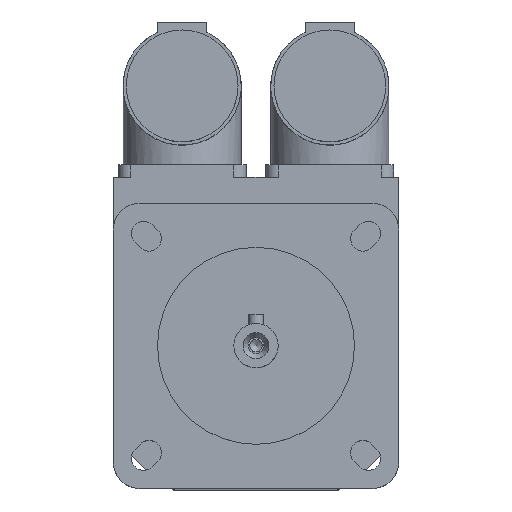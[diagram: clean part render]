
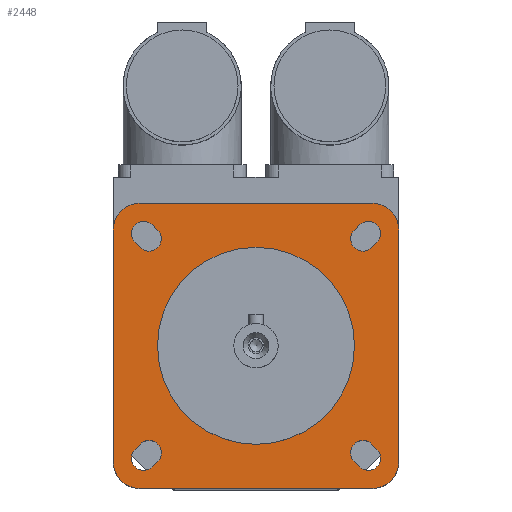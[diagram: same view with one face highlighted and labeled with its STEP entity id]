
A CAD part, top view. The second image highlights one B-rep face of the part: STEP entity #2448.
In plain terms, the highlighted planar face has unit normal (0, 0, 1).
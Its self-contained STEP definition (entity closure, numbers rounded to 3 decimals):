
#94=LINE('',#3819,#315);
#102=LINE('',#3843,#323);
#106=LINE('',#3853,#327);
#110=LINE('',#3863,#331);
#126=LINE('',#3914,#347);
#128=LINE('',#3920,#349);
#130=LINE('',#3926,#351);
#132=LINE('',#3932,#353);
#141=LINE('',#3960,#362);
#142=LINE('',#3961,#363);
#143=LINE('',#3962,#364);
#144=LINE('',#3963,#365);
#315=VECTOR('',#3029,1.5);
#323=VECTOR('',#3051,1.5);
#327=VECTOR('',#3061,1.5);
#331=VECTOR('',#3071,1.5);
#347=VECTOR('',#3117,1.5);
#349=VECTOR('',#3125,1.5);
#351=VECTOR('',#3133,1.5);
#353=VECTOR('',#3141,1.5);
#362=VECTOR('',#3172,47.);
#363=VECTOR('',#3173,47.);
#364=VECTOR('',#3174,47.);
#365=VECTOR('',#3175,47.);
#512=PLANE('',#2661);
#623=FACE_BOUND('',#851,.T.);
#624=FACE_BOUND('',#852,.T.);
#625=FACE_BOUND('',#853,.T.);
#626=FACE_BOUND('',#854,.T.);
#627=FACE_BOUND('',#855,.T.);
#699=FACE_OUTER_BOUND('',#850,.T.);
#850=EDGE_LOOP('',(#1958,#1959,#1960,#1961,#1962,#1963,#1964,#1965));
#851=EDGE_LOOP('',(#1966));
#852=EDGE_LOOP('',(#1967,#1968,#1969,#1970));
#853=EDGE_LOOP('',(#1971,#1972,#1973,#1974));
#854=EDGE_LOOP('',(#1975,#1976,#1977,#1978));
#855=EDGE_LOOP('',(#1979,#1980,#1981,#1982));
#950=CIRCLE('',#2551,20.);
#987=CIRCLE('',#2615,2.5);
#991=CIRCLE('',#2622,2.5);
#992=CIRCLE('',#2625,2.5);
#993=CIRCLE('',#2628,2.5);
#1003=CIRCLE('',#2643,2.5);
#1004=CIRCLE('',#2646,2.5);
#1005=CIRCLE('',#2649,2.5);
#1006=CIRCLE('',#2652,2.5);
#1007=CIRCLE('',#2654,5.5);
#1008=CIRCLE('',#2656,5.5);
#1009=CIRCLE('',#2658,5.5);
#1010=CIRCLE('',#2660,5.5);
#1078=VERTEX_POINT('',#3640);
#1143=VERTEX_POINT('',#3816);
#1144=VERTEX_POINT('',#3818);
#1145=VERTEX_POINT('',#3822);
#1152=VERTEX_POINT('',#3840);
#1153=VERTEX_POINT('',#3842);
#1154=VERTEX_POINT('',#3846);
#1155=VERTEX_POINT('',#3850);
#1156=VERTEX_POINT('',#3852);
#1157=VERTEX_POINT('',#3856);
#1158=VERTEX_POINT('',#3860);
#1159=VERTEX_POINT('',#3862);
#1160=VERTEX_POINT('',#3866);
#1179=VERTEX_POINT('',#3912);
#1180=VERTEX_POINT('',#3918);
#1181=VERTEX_POINT('',#3924);
#1182=VERTEX_POINT('',#3930);
#1183=VERTEX_POINT('',#3936);
#1184=VERTEX_POINT('',#3938);
#1185=VERTEX_POINT('',#3942);
#1186=VERTEX_POINT('',#3944);
#1187=VERTEX_POINT('',#3948);
#1188=VERTEX_POINT('',#3950);
#1189=VERTEX_POINT('',#3954);
#1190=VERTEX_POINT('',#3956);
#1324=EDGE_CURVE('',#1078,#1078,#950,.T.);
#1410=EDGE_CURVE('',#1144,#1143,#94,.T.);
#1413=EDGE_CURVE('',#1143,#1145,#987,.T.);
#1422=EDGE_CURVE('',#1153,#1152,#102,.T.);
#1425=EDGE_CURVE('',#1152,#1154,#991,.T.);
#1427=EDGE_CURVE('',#1156,#1155,#106,.T.);
#1430=EDGE_CURVE('',#1155,#1157,#992,.T.);
#1432=EDGE_CURVE('',#1159,#1158,#110,.T.);
#1435=EDGE_CURVE('',#1158,#1160,#993,.T.);
#1458=EDGE_CURVE('',#1157,#1179,#126,.T.);
#1459=EDGE_CURVE('',#1179,#1156,#1003,.T.);
#1461=EDGE_CURVE('',#1154,#1180,#128,.T.);
#1462=EDGE_CURVE('',#1180,#1153,#1004,.T.);
#1464=EDGE_CURVE('',#1160,#1181,#130,.T.);
#1465=EDGE_CURVE('',#1181,#1159,#1005,.T.);
#1467=EDGE_CURVE('',#1145,#1182,#132,.T.);
#1468=EDGE_CURVE('',#1182,#1144,#1006,.T.);
#1470=EDGE_CURVE('',#1184,#1183,#1007,.T.);
#1473=EDGE_CURVE('',#1186,#1185,#1008,.T.);
#1476=EDGE_CURVE('',#1188,#1187,#1009,.T.);
#1479=EDGE_CURVE('',#1190,#1189,#1010,.T.);
#1481=EDGE_CURVE('',#1183,#1190,#141,.T.);
#1482=EDGE_CURVE('',#1189,#1188,#142,.T.);
#1483=EDGE_CURVE('',#1187,#1186,#143,.T.);
#1484=EDGE_CURVE('',#1185,#1184,#144,.T.);
#1958=ORIENTED_EDGE('',*,*,#1481,.T.);
#1959=ORIENTED_EDGE('',*,*,#1479,.T.);
#1960=ORIENTED_EDGE('',*,*,#1482,.T.);
#1961=ORIENTED_EDGE('',*,*,#1476,.T.);
#1962=ORIENTED_EDGE('',*,*,#1483,.T.);
#1963=ORIENTED_EDGE('',*,*,#1473,.T.);
#1964=ORIENTED_EDGE('',*,*,#1484,.T.);
#1965=ORIENTED_EDGE('',*,*,#1470,.T.);
#1966=ORIENTED_EDGE('',*,*,#1324,.T.);
#1967=ORIENTED_EDGE('',*,*,#1458,.T.);
#1968=ORIENTED_EDGE('',*,*,#1459,.T.);
#1969=ORIENTED_EDGE('',*,*,#1427,.T.);
#1970=ORIENTED_EDGE('',*,*,#1430,.T.);
#1971=ORIENTED_EDGE('',*,*,#1461,.T.);
#1972=ORIENTED_EDGE('',*,*,#1462,.T.);
#1973=ORIENTED_EDGE('',*,*,#1422,.T.);
#1974=ORIENTED_EDGE('',*,*,#1425,.T.);
#1975=ORIENTED_EDGE('',*,*,#1464,.T.);
#1976=ORIENTED_EDGE('',*,*,#1465,.T.);
#1977=ORIENTED_EDGE('',*,*,#1432,.T.);
#1978=ORIENTED_EDGE('',*,*,#1435,.T.);
#1979=ORIENTED_EDGE('',*,*,#1467,.T.);
#1980=ORIENTED_EDGE('',*,*,#1468,.T.);
#1981=ORIENTED_EDGE('',*,*,#1410,.T.);
#1982=ORIENTED_EDGE('',*,*,#1413,.T.);
#2448=ADVANCED_FACE('',(#699,#623,#624,#625,#626,#627),#512,.T.);
#2551=AXIS2_PLACEMENT_3D('',#3641,#2854,#2855);
#2615=AXIS2_PLACEMENT_3D('',#3824,#3034,#3035);
#2622=AXIS2_PLACEMENT_3D('',#3848,#3056,#3057);
#2625=AXIS2_PLACEMENT_3D('',#3858,#3066,#3067);
#2628=AXIS2_PLACEMENT_3D('',#3868,#3076,#3077);
#2643=AXIS2_PLACEMENT_3D('',#3916,#3120,#3121);
#2646=AXIS2_PLACEMENT_3D('',#3922,#3128,#3129);
#2649=AXIS2_PLACEMENT_3D('',#3928,#3136,#3137);
#2652=AXIS2_PLACEMENT_3D('',#3934,#3144,#3145);
#2654=AXIS2_PLACEMENT_3D('',#3939,#3149,#3150);
#2656=AXIS2_PLACEMENT_3D('',#3945,#3155,#3156);
#2658=AXIS2_PLACEMENT_3D('',#3951,#3161,#3162);
#2660=AXIS2_PLACEMENT_3D('',#3957,#3167,#3168);
#2661=AXIS2_PLACEMENT_3D('',#3959,#3170,#3171);
#2854=DIRECTION('center_axis',(0.,0.,-1.));
#2855=DIRECTION('ref_axis',(-1.,0.,0.));
#3029=DIRECTION('',(-0.707,-0.707,0.));
#3034=DIRECTION('center_axis',(0.,0.,-1.));
#3035=DIRECTION('ref_axis',(0.707,-0.707,0.));
#3051=DIRECTION('',(-0.707,0.707,0.));
#3056=DIRECTION('center_axis',(0.,0.,-1.));
#3057=DIRECTION('ref_axis',(-0.707,-0.707,0.));
#3061=DIRECTION('',(-0.707,-0.707,0.));
#3066=DIRECTION('center_axis',(0.,0.,-1.));
#3067=DIRECTION('ref_axis',(0.707,-0.707,0.));
#3071=DIRECTION('',(-0.707,0.707,0.));
#3076=DIRECTION('center_axis',(0.,0.,-1.));
#3077=DIRECTION('ref_axis',(-0.707,-0.707,0.));
#3117=DIRECTION('',(0.707,0.707,0.));
#3120=DIRECTION('center_axis',(0.,0.,-1.));
#3121=DIRECTION('ref_axis',(-0.707,0.707,0.));
#3125=DIRECTION('',(0.707,-0.707,0.));
#3128=DIRECTION('center_axis',(0.,0.,-1.));
#3129=DIRECTION('ref_axis',(0.707,0.707,0.));
#3133=DIRECTION('',(0.707,-0.707,0.));
#3136=DIRECTION('center_axis',(0.,0.,-1.));
#3137=DIRECTION('ref_axis',(0.707,0.707,0.));
#3141=DIRECTION('',(0.707,0.707,0.));
#3144=DIRECTION('center_axis',(0.,0.,-1.));
#3145=DIRECTION('ref_axis',(-0.707,0.707,0.));
#3149=DIRECTION('center_axis',(0.,0.,1.));
#3150=DIRECTION('ref_axis',(1.,0.,0.));
#3155=DIRECTION('center_axis',(0.,0.,1.));
#3156=DIRECTION('ref_axis',(0.,-1.,0.));
#3161=DIRECTION('center_axis',(0.,0.,1.));
#3162=DIRECTION('ref_axis',(-1.,0.,0.));
#3167=DIRECTION('center_axis',(0.,0.,1.));
#3168=DIRECTION('ref_axis',(0.,1.,0.));
#3170=DIRECTION('center_axis',(0.,0.,1.));
#3171=DIRECTION('ref_axis',(1.,0.,0.));
#3172=DIRECTION('',(-1.,0.,0.));
#3173=DIRECTION('',(0.,-1.,0.));
#3174=DIRECTION('',(1.,0.,0.));
#3175=DIRECTION('',(0.,1.,0.));
#3640=CARTESIAN_POINT('',(20.,0.,146.5));
#3641=CARTESIAN_POINT('Origin',(0.,0.,146.5));
#3816=CARTESIAN_POINT('',(-21.036,-24.572,146.5));
#3818=CARTESIAN_POINT('',(-19.976,-23.511,146.5));
#3819=CARTESIAN_POINT('',(-9.634,-13.17,146.5));
#3822=CARTESIAN_POINT('',(-24.572,-21.036,146.5));
#3824=CARTESIAN_POINT('Origin',(-22.804,-22.804,146.5));
#3840=CARTESIAN_POINT('',(-24.572,21.036,146.5));
#3842=CARTESIAN_POINT('',(-23.511,19.976,146.5));
#3843=CARTESIAN_POINT('',(-13.17,9.634,146.5));
#3846=CARTESIAN_POINT('',(-21.036,24.572,146.5));
#3848=CARTESIAN_POINT('Origin',(-22.804,22.804,146.5));
#3850=CARTESIAN_POINT('',(23.511,19.976,146.5));
#3852=CARTESIAN_POINT('',(24.572,21.036,146.5));
#3853=CARTESIAN_POINT('',(12.64,9.104,146.5));
#3856=CARTESIAN_POINT('',(19.976,23.511,146.5));
#3858=CARTESIAN_POINT('Origin',(21.744,21.744,146.5));
#3860=CARTESIAN_POINT('',(19.976,-23.511,146.5));
#3862=CARTESIAN_POINT('',(21.036,-24.572,146.5));
#3863=CARTESIAN_POINT('',(9.104,-12.64,146.5));
#3866=CARTESIAN_POINT('',(23.511,-19.976,146.5));
#3868=CARTESIAN_POINT('Origin',(21.744,-21.744,146.5));
#3912=CARTESIAN_POINT('',(21.036,24.572,146.5));
#3914=CARTESIAN_POINT('',(9.634,13.17,146.5));
#3916=CARTESIAN_POINT('Origin',(22.804,22.804,146.5));
#3918=CARTESIAN_POINT('',(-19.976,23.511,146.5));
#3920=CARTESIAN_POINT('',(-9.104,12.64,146.5));
#3922=CARTESIAN_POINT('Origin',(-21.744,21.744,146.5));
#3924=CARTESIAN_POINT('',(24.572,-21.036,146.5));
#3926=CARTESIAN_POINT('',(13.17,-9.634,146.5));
#3928=CARTESIAN_POINT('Origin',(22.804,-22.804,146.5));
#3930=CARTESIAN_POINT('',(-23.511,-19.976,146.5));
#3932=CARTESIAN_POINT('',(-12.64,-9.104,146.5));
#3934=CARTESIAN_POINT('Origin',(-21.744,-21.744,146.5));
#3936=CARTESIAN_POINT('',(23.5,29.,146.5));
#3938=CARTESIAN_POINT('',(29.,23.5,146.5));
#3939=CARTESIAN_POINT('Origin',(23.5,23.5,146.5));
#3942=CARTESIAN_POINT('',(29.,-23.5,146.5));
#3944=CARTESIAN_POINT('',(23.5,-29.,146.5));
#3945=CARTESIAN_POINT('Origin',(23.5,-23.5,146.5));
#3948=CARTESIAN_POINT('',(-23.5,-29.,146.5));
#3950=CARTESIAN_POINT('',(-29.,-23.5,146.5));
#3951=CARTESIAN_POINT('Origin',(-23.5,-23.5,146.5));
#3954=CARTESIAN_POINT('',(-29.,23.5,146.5));
#3956=CARTESIAN_POINT('',(-23.5,29.,146.5));
#3957=CARTESIAN_POINT('Origin',(-23.5,23.5,146.5));
#3959=CARTESIAN_POINT('Origin',(0.,0.,
146.5));
#3960=CARTESIAN_POINT('',(23.5,29.,146.5));
#3961=CARTESIAN_POINT('',(-29.,23.5,146.5));
#3962=CARTESIAN_POINT('',(-23.5,-29.,146.5));
#3963=CARTESIAN_POINT('',(29.,-23.5,146.5));
